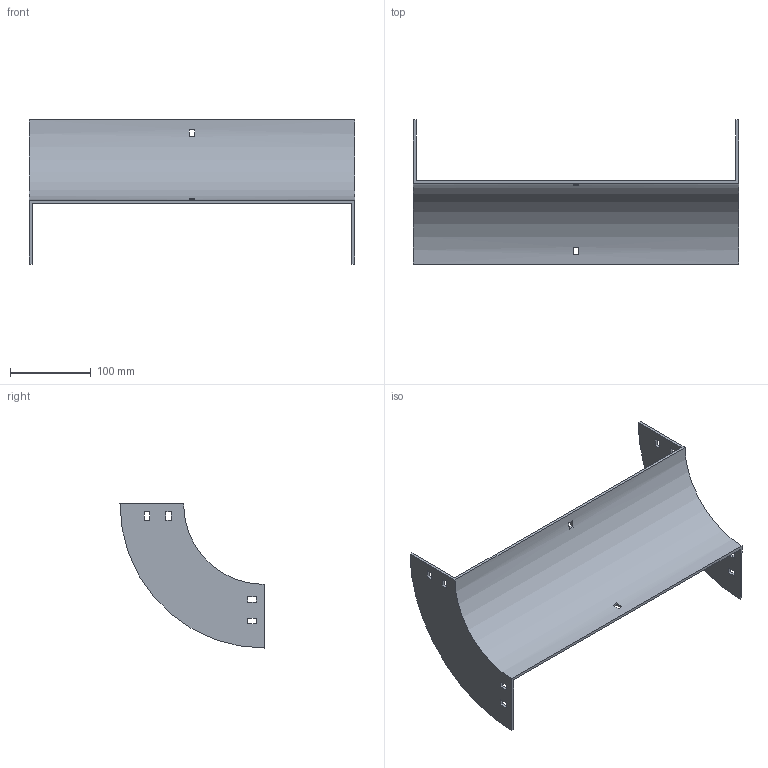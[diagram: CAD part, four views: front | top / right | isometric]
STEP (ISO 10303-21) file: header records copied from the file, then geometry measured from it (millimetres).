
FILE_DESCRIPTION (( 'STEP AP214' ), '1' );
FILE_NAME ('33B1C400.step', '2025-02-21T09:32:42', ( '' ), ( '' ), 'SwSTEP 2.0', 'SolidWorks 2023', '' );
FILE_SCHEMA (( 'AUTOMOTIVE_DESIGN' ));
Length unit declared in the file: millimetre
Products named in the file (1): 33B1C400
Bounding box: 404 x 179 x 179 mm (x, y, z)
Volume: 340883.3 mm3; surface area: 201796.5 mm2
Topology: 1 solids, 1 shells, 50 faces, 144 edges, 96 vertices
Faces by surface type: plane 46, cylinder 4
Entity records: 1687 total; most frequent: CARTESIAN_POINT 291, ORIENTED_EDGE 288, DIRECTION 262, EDGE_CURVE 144, VECTOR 128, LINE 128, VERTEX_POINT 96, EDGE_LOOP 70
